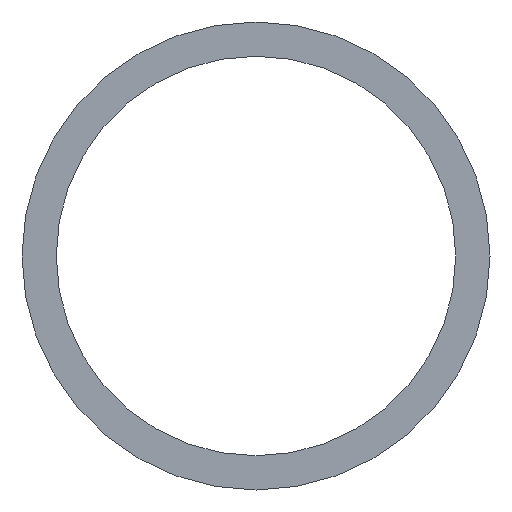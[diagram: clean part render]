
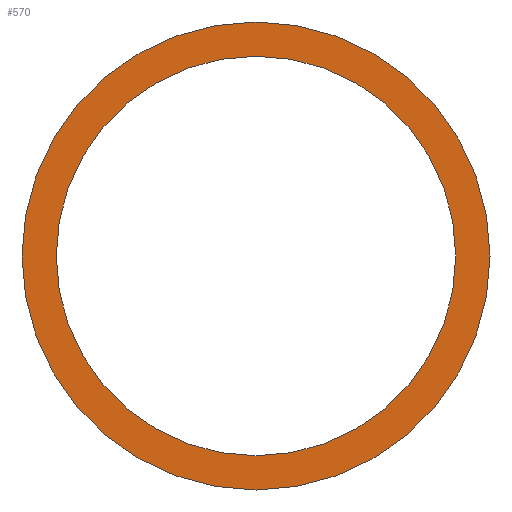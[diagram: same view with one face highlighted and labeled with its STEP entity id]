
A CAD part, front view. The second image highlights one B-rep face of the part: STEP entity #570.
In plain terms, the highlighted planar face has unit normal (0, -1, 0).
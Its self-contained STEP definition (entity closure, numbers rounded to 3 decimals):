
#10 = EDGE_CURVE ( 'NONE', #284, #854, #107, .T. ) ;
#107 = CIRCLE ( 'NONE', #280, 185. ) ;
#122 = CARTESIAN_POINT ( 'NONE',  ( 0., 0., 185. ) ) ;
#137 = DIRECTION ( 'NONE',  ( 0., 0., -1. ) ) ;
#162 = ORIENTED_EDGE ( 'NONE', *, *, #929, .F. ) ;
#181 = CARTESIAN_POINT ( 'NONE',  ( 0., 0., -185. ) ) ;
#268 = AXIS2_PLACEMENT_3D ( 'NONE', #835, #648, #927 ) ;
#280 = AXIS2_PLACEMENT_3D ( 'NONE', #795, #1138, #137 ) ;
#284 = VERTEX_POINT ( 'NONE', #591 ) ;
#303 = VERTEX_POINT ( 'NONE', #1130 ) ;
#305 = PLANE ( 'NONE',  #672 ) ;
#324 = AXIS2_PLACEMENT_3D ( 'NONE', #600, #1068, #439 ) ;
#349 = DIRECTION ( 'NONE',  ( 0., 0., -1. ) ) ;
#387 = FACE_OUTER_BOUND ( 'NONE', #465, .T. ) ;
#397 = ORIENTED_EDGE ( 'NONE', *, *, #532, .T. ) ;
#439 = DIRECTION ( 'NONE',  ( 0., 0., -1. ) ) ;
#442 = CARTESIAN_POINT ( 'NONE',  ( 0., 0., 0. ) ) ;
#465 = EDGE_LOOP ( 'NONE', ( #397, #746 ) ) ;
#484 = DIRECTION ( 'NONE',  ( 0., 0., 1. ) ) ;
#506 = EDGE_LOOP ( 'NONE', ( #837, #162 ) ) ;
#532 = EDGE_CURVE ( 'NONE', #854, #284, #794, .T. ) ;
#567 = DIRECTION ( 'NONE',  ( 0., 1., 0. ) ) ;
#570 = ADVANCED_FACE ( 'NONE', ( #1111, #387 ), #305, .F. ) ;
#591 = CARTESIAN_POINT ( 'NONE',  ( 0., 0., 185. ) ) ;
#600 = CARTESIAN_POINT ( 'NONE',  ( 0., 0., 0. ) ) ;
#648 = DIRECTION ( 'NONE',  ( 0., -1., 0. ) ) ;
#672 = AXIS2_PLACEMENT_3D ( 'NONE', #122, #567, #484 ) ;
#684 = EDGE_CURVE ( 'NONE', #303, #831, #717, .T. ) ;
#717 = CIRCLE ( 'NONE', #324, 157.95 ) ;
#746 = ORIENTED_EDGE ( 'NONE', *, *, #10, .T. ) ;
#751 = AXIS2_PLACEMENT_3D ( 'NONE', #442, #813, #349 ) ;
#794 = CIRCLE ( 'NONE', #751, 185. ) ;
#795 = CARTESIAN_POINT ( 'NONE',  ( 0., 0., 0. ) ) ;
#813 = DIRECTION ( 'NONE',  ( 0., -1., 0. ) ) ;
#831 = VERTEX_POINT ( 'NONE', #914 ) ;
#835 = CARTESIAN_POINT ( 'NONE',  ( 0., 0., 0. ) ) ;
#837 = ORIENTED_EDGE ( 'NONE', *, *, #684, .F. ) ;
#854 = VERTEX_POINT ( 'NONE', #181 ) ;
#914 = CARTESIAN_POINT ( 'NONE',  ( 0., 0., 157.95 ) ) ;
#923 = CIRCLE ( 'NONE', #268, 157.95 ) ;
#927 = DIRECTION ( 'NONE',  ( 0., 0., -1. ) ) ;
#929 = EDGE_CURVE ( 'NONE', #831, #303, #923, .T. ) ;
#1068 = DIRECTION ( 'NONE',  ( 0., -1., 0. ) ) ;
#1111 = FACE_BOUND ( 'NONE', #506, .T. ) ;
#1130 = CARTESIAN_POINT ( 'NONE',  ( 0., 0., -157.95 ) ) ;
#1138 = DIRECTION ( 'NONE',  ( 0., -1., 0. ) ) ;
